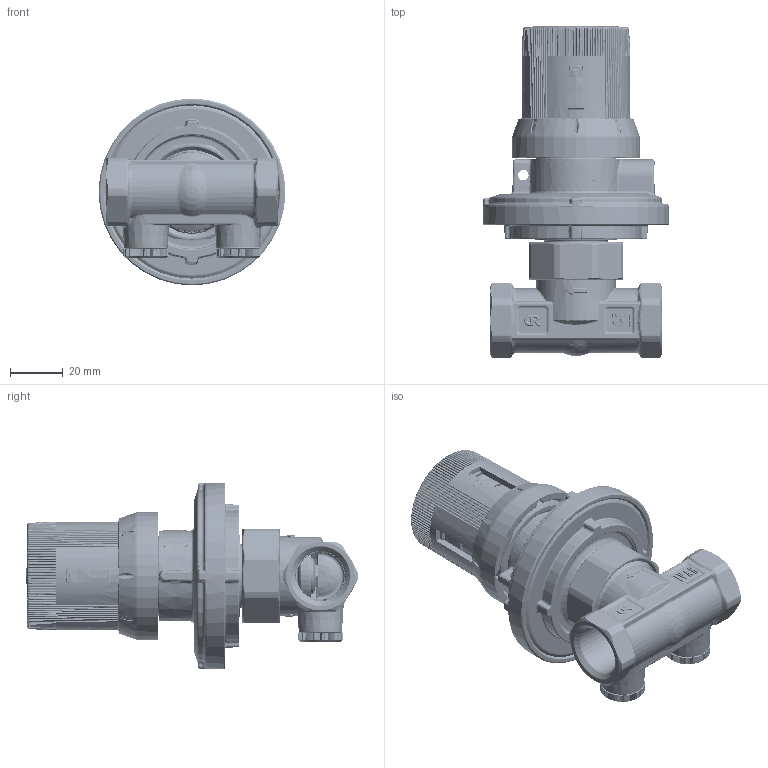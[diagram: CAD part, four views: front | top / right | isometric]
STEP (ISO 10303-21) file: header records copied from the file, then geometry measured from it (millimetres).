
FILE_DESCRIPTION(/* description */ (''),/* implementation_level */ '2;1');
FILE_NAME(/* name */ 'F:\Артём\00000\Работа удаленка\130\VT.041.G.30004.stp',/* time_stamp */ '2021-04-05T15:36:56+03:00',/* author */ ('almis'),/* organization */ (''),/* preprocessor_version */ 'ST-DEVELOPER v18',/* originating_system */ 'Autodesk Inventor 2020',/* authorisation */ '');
FILE_SCHEMA (('AUTOMOTIVE_DESIGN { 1 0 10303 214 3 1 1 }'));
Length unit declared in the file: millimetre
Products named in the file (1): 550113 differenziale DN15  50-300
Bounding box: 70.9 x 125.94 x 70.89 mm (x, y, z)
Volume: 126170.4 mm3; surface area: 95627.6 mm2
Topology: 2 solids, 27 shells, 9729 faces, 25639 edges, 15934 vertices
Faces by surface type: bspline 3233, cylinder 2291, plane 2137, torus 940, cone 777, sphere 351
Full cylindrical faces by diameter (mm): 3.5 x2, 4 x1, 4.25 x1, 5 x4, 6 x3, 6.2 x2, 6.5 x1, 6.8 x1, 7 x6, 7.2 x1, 7.8 x2, 8 x1, 8.6 x1, 9.4 x3, 9.5 x4, 10 x1, 10.5 x3, 10.6 x1, 11.5 x4, 11.8 x1, 12 x3, 13 x2, 13.7 x2, 14 x2, 14.1 x1, 14.2 x1, 15 x2, 15.2 x2, 16 x2, 16.8 x1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
Entity records: 404441 total; most frequent: CARTESIAN_POINT 173218, ORIENTED_EDGE 50096, DIRECTION 43381, EDGE_CURVE 25048, AXIS2_PLACEMENT_3D 17777, VERTEX_POINT 15786, EDGE_LOOP 10035, FACE_OUTER_BOUND 9581
